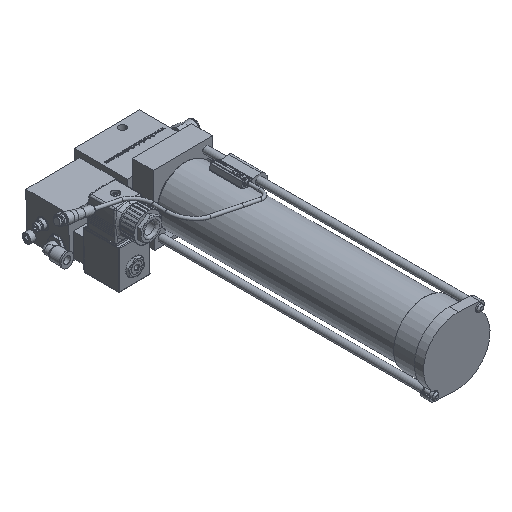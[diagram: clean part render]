
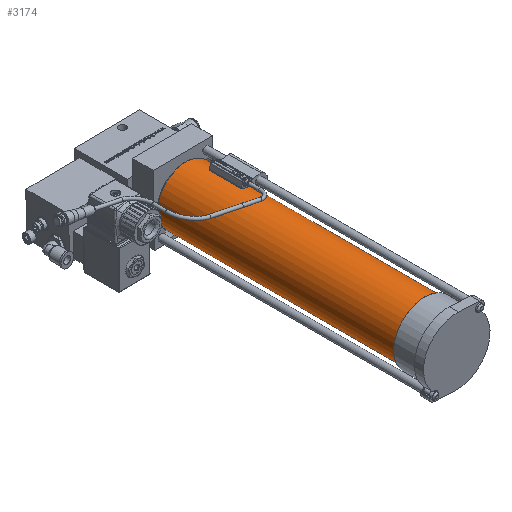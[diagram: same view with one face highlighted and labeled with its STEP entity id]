
A CAD part, isometric view. The second image highlights one B-rep face of the part: STEP entity #3174.
In plain terms, the highlighted cylindrical face has radius 26.5 mm (diameter 53 mm), a full revolution.
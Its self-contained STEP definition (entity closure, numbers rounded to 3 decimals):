
#330 = DIRECTION ( 'NONE',  ( -1., 0., 0. ) ) ;
#736 = CARTESIAN_POINT ( 'NONE',  ( 26.5, 0., 0. ) ) ;
#3174 = ADVANCED_FACE ( 'NONE', ( #26024, #50378 ), #46284, .T. ) ;
#6697 = CARTESIAN_POINT ( 'NONE',  ( 0., 0., 244. ) ) ;
#7504 = AXIS2_PLACEMENT_3D ( 'NONE', #25515, #50655, #330 ) ;
#10261 = DIRECTION ( 'NONE',  ( 1., 0., 0. ) ) ;
#11700 = ORIENTED_EDGE ( 'NONE', *, *, #35716, .T. ) ;
#14469 = CARTESIAN_POINT ( 'NONE',  ( 0., 0., 0. ) ) ;
#16883 = EDGE_CURVE ( 'NONE', #52443, #52443, #28535, .T. ) ;
#23904 = CIRCLE ( 'NONE', #30000, 26.5 ) ;
#25515 = CARTESIAN_POINT ( 'NONE',  ( 0., 0., 245. ) ) ;
#26024 = FACE_OUTER_BOUND ( 'NONE', #51991, .T. ) ;
#28535 = CIRCLE ( 'NONE', #43383, 26.5 ) ;
#30000 = AXIS2_PLACEMENT_3D ( 'NONE', #14469, #47593, #44052 ) ;
#35317 = ORIENTED_EDGE ( 'NONE', *, *, #16883, .T. ) ;
#35716 = EDGE_CURVE ( 'NONE', #38216, #38216, #23904, .T. ) ;
#38216 = VERTEX_POINT ( 'NONE', #736 ) ;
#39265 = CARTESIAN_POINT ( 'NONE',  ( 26.5, 0., 244. ) ) ;
#43383 = AXIS2_PLACEMENT_3D ( 'NONE', #6697, #47761, #10261 ) ;
#44052 = DIRECTION ( 'NONE',  ( 1., 0., 0. ) ) ;
#46284 = CYLINDRICAL_SURFACE ( 'NONE', #7504, 26.5 ) ;
#47593 = DIRECTION ( 'NONE',  ( 0., 0., 1. ) ) ;
#47761 = DIRECTION ( 'NONE',  ( 0., 0., -1. ) ) ;
#50378 = FACE_OUTER_BOUND ( 'NONE', #53753, .T. ) ;
#50655 = DIRECTION ( 'NONE',  ( 0., 0., -1. ) ) ;
#51991 = EDGE_LOOP ( 'NONE', ( #35317 ) ) ;
#52443 = VERTEX_POINT ( 'NONE', #39265 ) ;
#53753 = EDGE_LOOP ( 'NONE', ( #11700 ) ) ;
